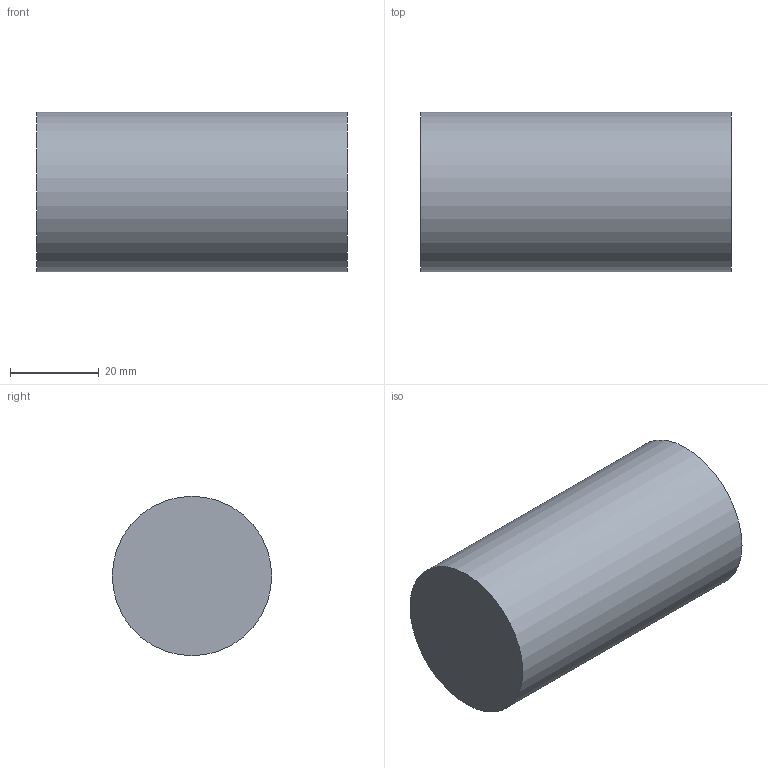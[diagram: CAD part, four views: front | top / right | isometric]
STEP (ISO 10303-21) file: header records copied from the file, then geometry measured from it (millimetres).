
FILE_DESCRIPTION(('Open CASCADE Model'),'2;1');
FILE_NAME('Open CASCADE Shape Model','2026-11-04T08:45:18',('Author'),( 'Open CASCADE'),'Open CASCADE STEP processor 7.8','Open CASCADE 7.8' ,'Unknown');
FILE_SCHEMA(('AUTOMOTIVE_DESIGN { 1 0 10303 214 1 1 1 1 }'));
Length unit declared in the file: millimetre
Products named in the file (1): Open CASCADE STEP translator 7.8 22
Bounding box: 70 x 36 x 36 mm (x, y, z)
Volume: 71251.3 mm3; surface area: 9952.6 mm2
Topology: 1 solids, 1 shells, 3 faces, 3 edges, 2 vertices
Faces by surface type: plane 2, cylinder 1
Full cylindrical faces by diameter (mm): 36 x1
Entity records: 108 total; most frequent: DIRECTION 19, CARTESIAN_POINT 15, AXIS2_PLACEMENT_3D 6, ORIENTED_EDGE 6, PCURVE 6, DEFINITIONAL_REPRESENTATION 6, LINE 5, VECTOR 5
